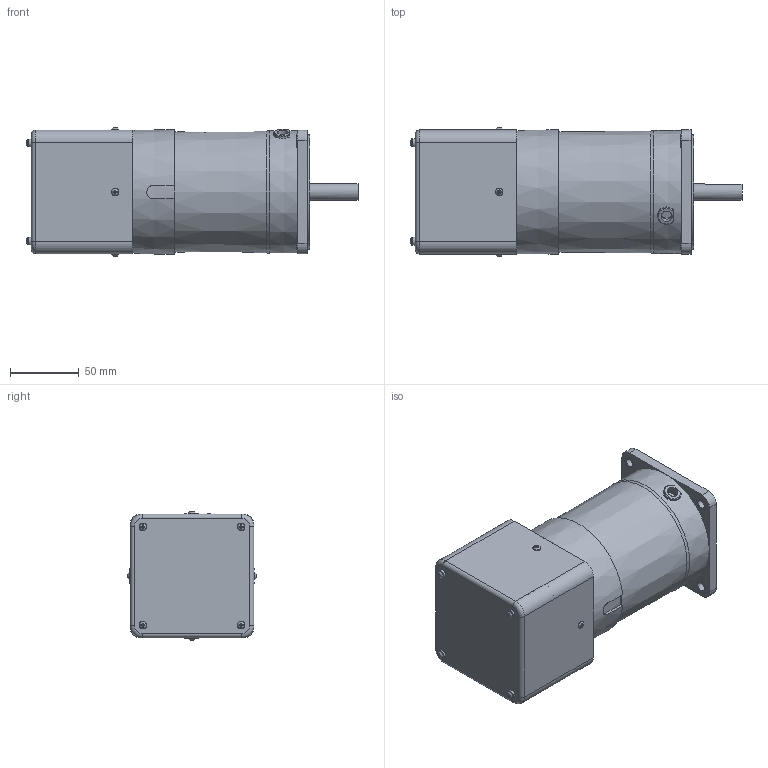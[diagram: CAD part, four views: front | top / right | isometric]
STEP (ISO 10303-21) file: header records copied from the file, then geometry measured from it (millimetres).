
FILE_DESCRIPTION((''),'2;1');
FILE_NAME('D:\STP파일\90W MOTOR\ES TYPE\S9I90K-ES.stp','2013-05-20T18:21:39',('leebh'),(''),'Autodesk Inventor 2011','Autodesk Inventor 2011','');
FILE_SCHEMA(('AUTOMOTIVE_DESIGN { 1 0 10303 214 1 1 1 1 }'));
Length unit declared in the file: millimetre
Products named in the file (1): 부품1
Bounding box: 241.25 x 93.89 x 93.89 mm (x, y, z)
Volume: 1129604.4 mm3; surface area: 113399.7 mm2
Topology: 1 solids, 7 shells, 295 faces, 708 edges, 457 vertices
Faces by surface type: plane 180, cylinder 73, torus 26, cone 8, bspline 8
Full cylindrical faces by diameter (mm): 3 x8, 4.5 x4, 5.6 x12, 6.5 x4, 8 x1, 9.5 x4, 10 x1, 12 x1, 40 x1, 83 x1, 86 x1
Entity records: 8930 total; most frequent: CARTESIAN_POINT 2319, DIRECTION 1269, ORIENTED_EDGE 1240, EDGE_CURVE 620, AXIS2_PLACEMENT_3D 467, VERTEX_POINT 441, EDGE_LOOP 413, VECTOR 335
